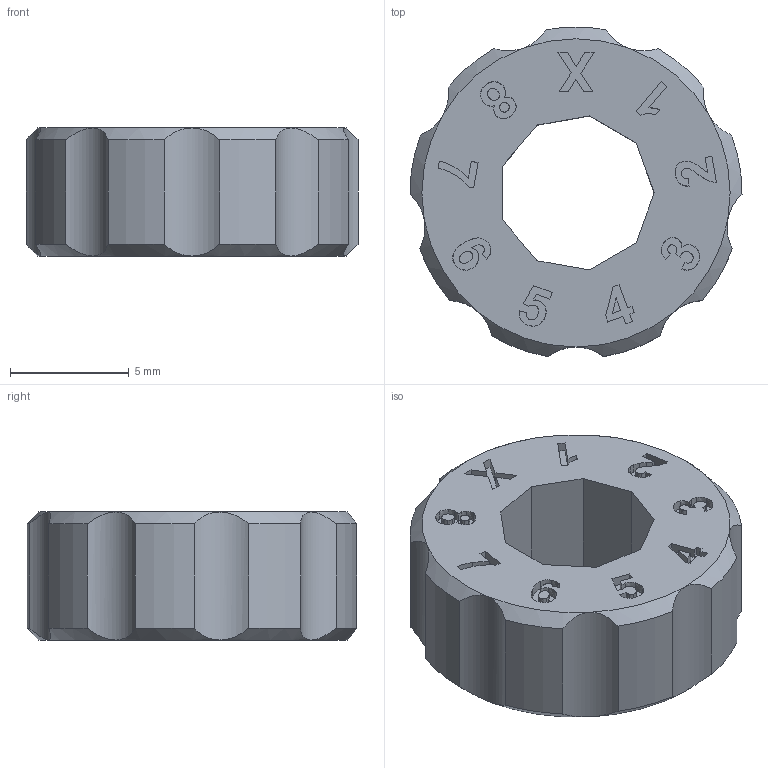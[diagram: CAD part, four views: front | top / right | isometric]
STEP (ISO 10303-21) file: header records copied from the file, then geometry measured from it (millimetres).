
FILE_DESCRIPTION(('Open CASCADE Model'),'2;1');
FILE_NAME('Open CASCADE Shape Model','2026-11-10T13:53:39',('Author'),( 'Open CASCADE'),'Open CASCADE STEP processor 7.7','Open CASCADE 7.7' ,'Unknown');
FILE_SCHEMA(('AUTOMOTIVE_DESIGN { 1 0 10303 214 1 1 1 1 }'));
Length unit declared in the file: millimetre
Products named in the file (1): Open CASCADE STEP translator 7.7 8
Bounding box: 14 x 13.89 x 5.4 mm (x, y, z)
Volume: 609.3 mm3; surface area: 617.7 mm2
Topology: 1 solids, 1 shells, 413 faces, 1137 edges, 752 vertices
Faces by surface type: extrusion 238, plane 139, cylinder 18, cone 18
Entity records: 33468 total; most frequent: CARTESIAN_POINT 12679, DIRECTION 2895, VECTOR 2461, ORIENTED_EDGE 2274, PCURVE 2274, DEFINITIONAL_REPRESENTATION 2274, LINE 2223, B_SPLINE_CURVE_WITH_KNOTS 1372
